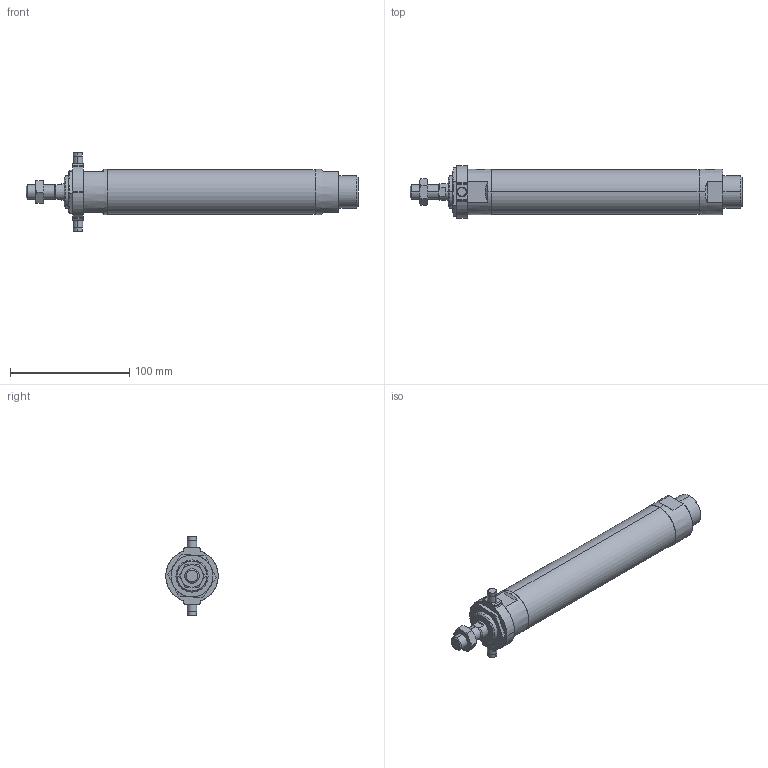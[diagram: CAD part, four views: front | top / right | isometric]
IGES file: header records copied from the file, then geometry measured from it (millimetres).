
Start section: SolidWorks IGES file using analytic representation for surfaces
Global section: file name: C:\Users\Toshiba\Desktop\J#2-32-125-T.IGS; native system: SolidWorks 2014; preprocessor: SolidWorks 2014; author: Toshiba; date: 160308.153954; units: millimetre
Bounding box: 278 x 44 x 66 mm (x, y, z)
Surface area: 39956.3 mm2 (no closed solid volume)
Topology: 0 solids, 0 shells, 133 faces, 2156 edges, 2152 vertices
Faces by surface type: bspline 67, revolution 66
